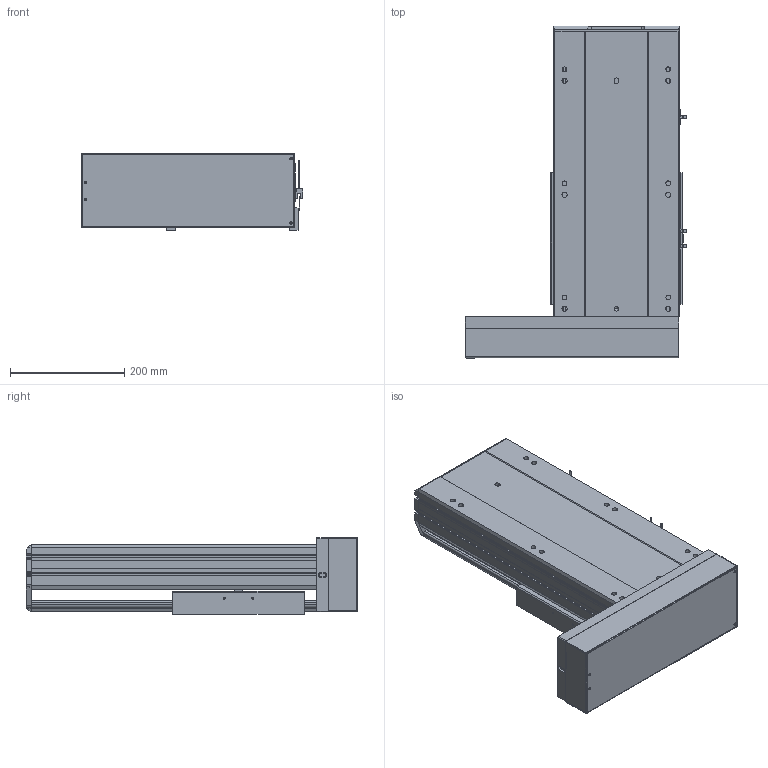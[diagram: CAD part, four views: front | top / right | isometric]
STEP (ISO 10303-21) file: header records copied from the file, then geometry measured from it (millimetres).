
FILE_DESCRIPTION (( 'STEP AP203' ), '1' );
FILE_NAME ('20.STEP', '2022-07-01T12:36:02', ( '' ), ( '' ), 'SwSTEP 2.0', 'SolidWorks 2016', '' );
FILE_SCHEMA (( 'CONFIG_CONTROL_DESIGN' ));
Length unit declared in the file: millimetre
Products named in the file (7): BTH22-BL-04; H130-PCD145; 20; BTH22-BL-01; BTH22-BL-菁釱; BTH22-BL-06-PCD145; BTH22-BL-HZ
Assembly tree (8 placements, depth 2):
  20
    BTH22-BL-菁釱
    BTH22-BL-01
    BTH22-BL-04  x3
    BTH22-BL-HZ
    BTH22-BL-06-PCD145
    H130-PCD145
Bounding box: 389.2 x 582 x 134 mm (x, y, z)
Volume: 7765283.6 mm3; surface area: 1233130.5 mm2
Topology: 10 solids, 10 shells, 1125 faces, 3081 edges, 2003 vertices
Faces by surface type: plane 626, cylinder 371, bspline 86, cone 42
Entity records: 120230 total; most frequent: CARTESIAN_POINT 55579, ORIENTED_EDGE 13781, DIRECTION 12122, EDGE_CURVE 7396, VERTEX_POINT 4816, AXIS2_PLACEMENT_3D 4440, LINE 3242, VECTOR 3242
